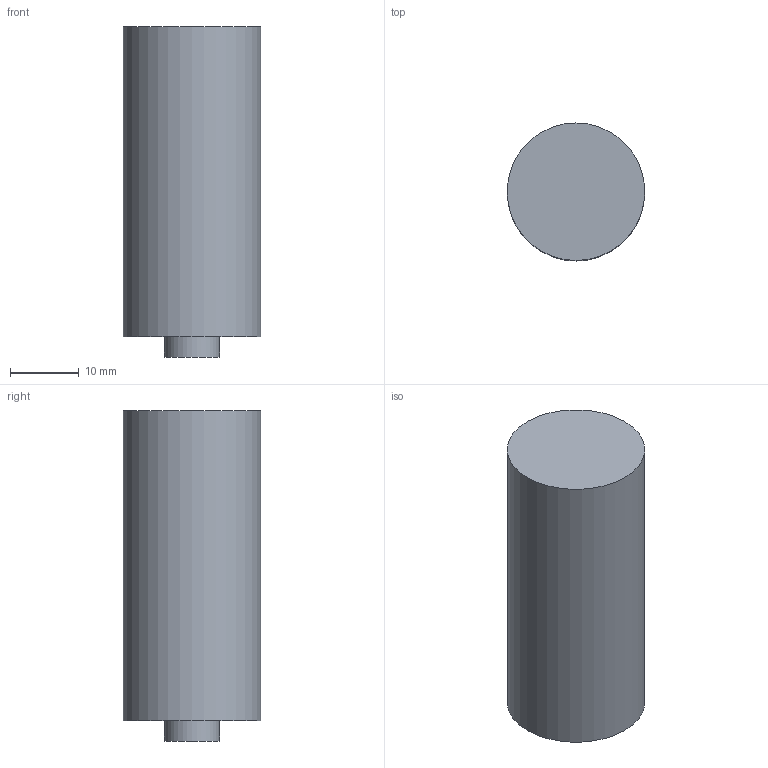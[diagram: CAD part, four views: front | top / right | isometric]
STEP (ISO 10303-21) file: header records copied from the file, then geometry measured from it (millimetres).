
FILE_DESCRIPTION(('STEP AP242'), '1');
FILE_NAME('Áàòàðåéêà', '', ('UNSPECIFIED'), ('UNSPECIFIED'), 'C3D Converter', 'C3D Toolkit', '');
FILE_SCHEMA(('AP242_MANAGED_MODEL_BASED_3D_ENGINEERING_MIM_LF { 1 0 10303 442 1 1 4 }'));
Length unit declared in the file: millimetre
Bounding box: 20 x 20 x 48 mm (x, y, z)
Volume: 14288 mm3; surface area: 3531.2 mm2
Topology: 1 solids, 1 shells, 5 faces, 6 edges, 4 vertices
Faces by surface type: plane 3, cylinder 2
Full cylindrical faces by diameter (mm): 8 x1, 20 x1
Entity records: 134 total; most frequent: DIRECTION 20, CARTESIAN_POINT 14, AXIS2_PLACEMENT_3D 10, EDGE_LOOP 8, ORIENTED_EDGE 8, ADVANCED_FACE 5, FACE_BOUND 4, FACE_OUTER_BOUND 4
